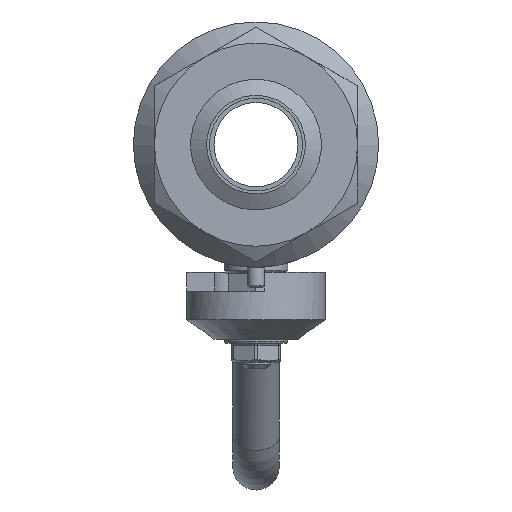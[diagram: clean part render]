
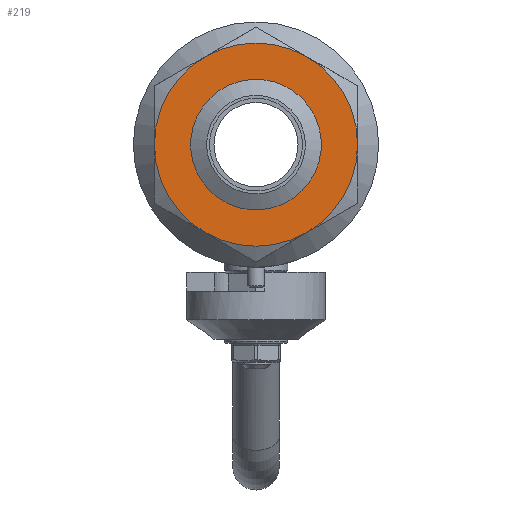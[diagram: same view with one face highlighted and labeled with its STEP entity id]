
A CAD part, left-side view. The second image highlights one B-rep face of the part: STEP entity #219.
In plain terms, the highlighted planar face has unit normal (-1, 0, 0).
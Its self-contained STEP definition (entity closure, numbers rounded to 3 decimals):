
#219=ADVANCED_FACE('',(#2114,#2116),#2118,.T.);
#2114=FACE_BOUND('',#2115,.T.);
#2115=EDGE_LOOP('',(#3472));
#2116=FACE_OUTER_BOUND('',#2117,.T.);
#2117=EDGE_LOOP('',(#3473,#3474,#3475,#3476,#3477,#3478));
#2118=PLANE('',#2119);
#2119=AXIS2_PLACEMENT_3D('',#2120,#2121,#2122);
#2120=CARTESIAN_POINT('',(-107.,0.,0.));
#2121=DIRECTION('',(-1.,0.,0.));
#2122=DIRECTION('',(0.,0.,-1.));
#3472=ORIENTED_EDGE('',*,*,#4871,.F.);
#3473=ORIENTED_EDGE('',*,*,#4904,.F.);
#3474=ORIENTED_EDGE('',*,*,#4905,.F.);
#3475=ORIENTED_EDGE('',*,*,#4906,.F.);
#3476=ORIENTED_EDGE('',*,*,#4907,.F.);
#3477=ORIENTED_EDGE('',*,*,#4908,.F.);
#3478=ORIENTED_EDGE('',*,*,#4909,.F.);
#4871=EDGE_CURVE('',#5498,#5498,#5500,.F.);
#4904=EDGE_CURVE('',#5540,#5541,#5542,.T.);
#4905=EDGE_CURVE('',#5543,#5540,#5544,.T.);
#4906=EDGE_CURVE('',#5545,#5543,#5546,.T.);
#4907=EDGE_CURVE('',#5547,#5545,#5548,.T.);
#4908=EDGE_CURVE('',#5549,#5547,#5550,.T.);
#4909=EDGE_CURVE('',#5541,#5549,#5551,.T.);
#5498=VERTEX_POINT('',#8162);
#5500=CIRCLE('',#8166,22.5);
#5540=VERTEX_POINT('',#8520);
#5541=VERTEX_POINT('',#8521);
#5542=CIRCLE('',#8522,35.);
#5543=VERTEX_POINT('',#8526);
#5544=CIRCLE('',#8527,35.);
#5545=VERTEX_POINT('',#8531);
#5546=CIRCLE('',#8532,35.);
#5547=VERTEX_POINT('',#8536);
#5548=CIRCLE('',#8537,35.);
#5549=VERTEX_POINT('',#8541);
#5550=CIRCLE('',#8542,35.);
#5551=CIRCLE('',#8546,35.);
#8162=CARTESIAN_POINT('',(-107.,-9.582,20.358));
#8166=AXIS2_PLACEMENT_3D('',#8167,#8168,#8169);
#8167=CARTESIAN_POINT('',(-107.,0.,0.));
#8168=DIRECTION('',(1.,0.,0.));
#8169=DIRECTION('',(0.,-0.426,0.905));
#8520=CARTESIAN_POINT('',(-107.,-35.,0.));
#8521=CARTESIAN_POINT('',(-107.,-17.5,-30.311));
#8522=AXIS2_PLACEMENT_3D('',#8523,#8524,#8525);
#8523=CARTESIAN_POINT('',(-107.,0.,0.));
#8524=DIRECTION('',(1.,0.,0.));
#8525=DIRECTION('',(0.,-1.,0.));
#8526=CARTESIAN_POINT('',(-107.,-17.5,30.311));
#8527=AXIS2_PLACEMENT_3D('',#8528,#8529,#8530);
#8528=CARTESIAN_POINT('',(-107.,0.,0.));
#8529=DIRECTION('',(1.,0.,0.));
#8530=DIRECTION('',(0.,-0.5,0.866));
#8531=CARTESIAN_POINT('',(-107.,17.5,30.311));
#8532=AXIS2_PLACEMENT_3D('',#8533,#8534,#8535);
#8533=CARTESIAN_POINT('',(-107.,0.,0.));
#8534=DIRECTION('',(1.,0.,0.));
#8535=DIRECTION('',(0.,0.5,0.866));
#8536=CARTESIAN_POINT('',(-107.,35.,0.));
#8537=AXIS2_PLACEMENT_3D('',#8538,#8539,#8540);
#8538=CARTESIAN_POINT('',(-107.,0.,0.));
#8539=DIRECTION('',(1.,0.,0.));
#8540=DIRECTION('',(0.,1.,0.));
#8541=CARTESIAN_POINT('',(-107.,17.5,-30.311));
#8542=AXIS2_PLACEMENT_3D('',#8543,#8544,#8545);
#8543=CARTESIAN_POINT('',(-107.,0.,0.));
#8544=DIRECTION('',(1.,0.,0.));
#8545=DIRECTION('',(0.,0.5,-0.866));
#8546=AXIS2_PLACEMENT_3D('',#8547,#8548,#8549);
#8547=CARTESIAN_POINT('',(-107.,0.,0.));
#8548=DIRECTION('',(1.,0.,0.));
#8549=DIRECTION('',(0.,-0.5,-0.866));
